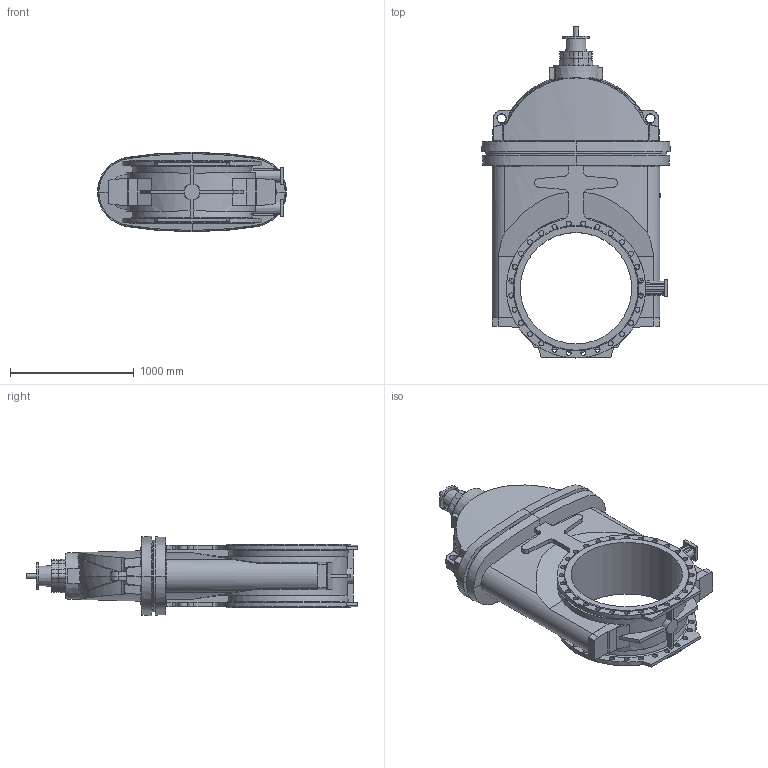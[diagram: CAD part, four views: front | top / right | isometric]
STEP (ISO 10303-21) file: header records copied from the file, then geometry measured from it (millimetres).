
FILE_DESCRIPTION (( 'STEP AP203' ), '1' );
FILE_NAME ('O_06_30_DN900_X1XXX_AA0.step', '2019-03-20T10:03:27', ( 'Windows User' ), ( 'AVK' ), 'SwSTEP 2.0', 'SolidWorks 2012', '' );
FILE_SCHEMA (( 'CONFIG_CONTROL_DESIGN' ));
Length unit declared in the file: millimetre
Products named in the file (1): O_06_30_DN900_X1XXX_AA0
Bounding box: 1525 x 2679.75 x 642.5 mm (x, y, z)
Volume: 753292043.4 mm3; surface area: 11093960.4 mm2
Topology: 1 solids, 1 shells, 434 faces, 1416 edges, 938 vertices
Faces by surface type: plane 216, cylinder 111, cone 62, bspline 41, torus 4
Full cylindrical faces by diameter (mm): 23 x4, 40 x1, 41 x56, 210 x1, 900 x1
Entity records: 19810 total; most frequent: CARTESIAN_POINT 8551, ORIENTED_EDGE 2538, DIRECTION 2022, EDGE_CURVE 1269, VERTEX_POINT 866, AXIS2_PLACEMENT_3D 780, EDGE_LOOP 585, FACE_OUTER_BOUND 495
